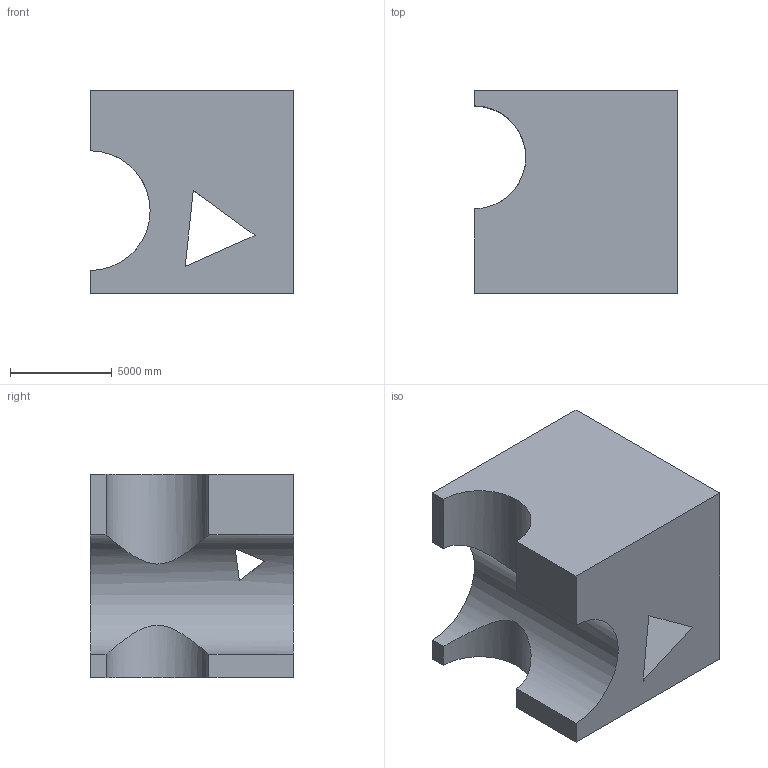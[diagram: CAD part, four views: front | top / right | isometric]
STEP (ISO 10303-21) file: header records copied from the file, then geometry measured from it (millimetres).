
FILE_DESCRIPTION (( 'STEP AP203' ), '1' );
FILE_NAME ('262.STEP', '2022-09-07T12:30:03', ( 'user' ), ( '' ), 'SwSTEP 2.0', 'SolidWorks 2021', '' );
FILE_SCHEMA (( 'CONFIG_CONTROL_DESIGN' ));
Length unit declared in the file: centimetre
Products named in the file (1): 262
Bounding box: 10000 x 10000 x 10000 mm (x, y, z)
Volume: 747083390425.3 mm3; surface area: 719498840.8 mm2
Topology: 1 solids, 1 shells, 18 faces, 54 edges, 36 vertices
Faces by surface type: plane 15, cylinder 3
Entity records: 1071 total; most frequent: CARTESIAN_POINT 502, ORIENTED_EDGE 108, DIRECTION 91, EDGE_CURVE 54, LINE 45, VECTOR 45, VERTEX_POINT 36, AXIS2_PLACEMENT_3D 23
